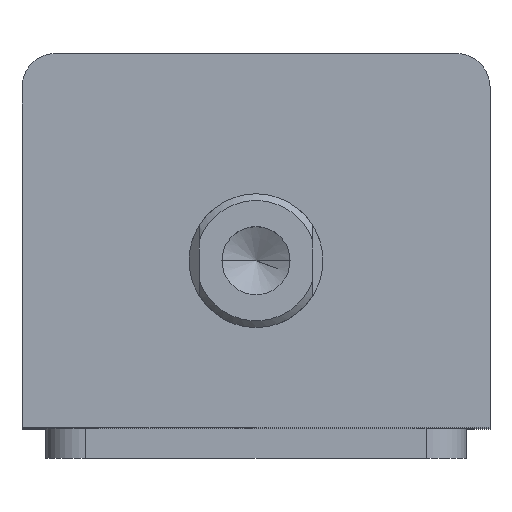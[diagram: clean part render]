
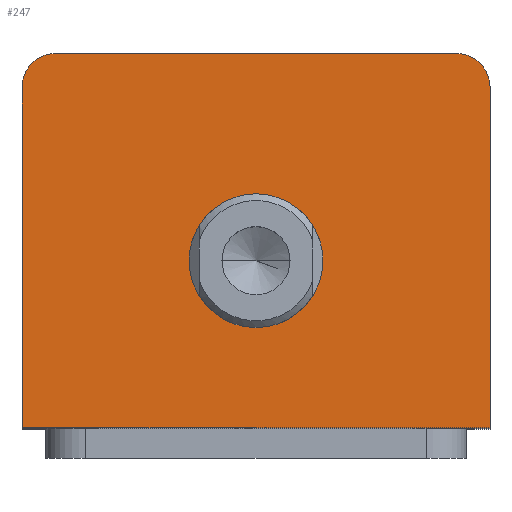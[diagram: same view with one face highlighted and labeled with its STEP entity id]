
A CAD part, top view. The second image highlights one B-rep face of the part: STEP entity #247.
In plain terms, the highlighted planar face has unit normal (0, 0, 1).
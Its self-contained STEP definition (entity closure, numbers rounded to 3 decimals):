
#91 = AXIS2_PLACEMENT_3D ( 'NONE', #2049, #2036, #2034 ) ;
#132 = AXIS2_PLACEMENT_3D ( 'NONE', #2717, #2661, #2707 ) ;
#142 = AXIS2_PLACEMENT_3D ( 'NONE', #2715, #2743, #2668 ) ;
#151 = EDGE_CURVE ( 'NONE', #3045, #2194, #959, .T. ) ;
#176 = EDGE_CURVE ( 'NONE', #3063, #501, #992, .T. ) ;
#247 = ADVANCED_FACE ( 'NONE', ( #1109, #1112 ), #2038, .T. ) ;
#501 = VERTEX_POINT ( 'NONE', #1420 ) ;
#531 = AXIS2_PLACEMENT_3D ( 'NONE', #1759, #1758, #1757 ) ;
#644 = AXIS2_PLACEMENT_3D ( 'NONE', #2566, #2465, #2549 ) ;
#694 = LINE ( 'NONE', #1790, #699 ) ;
#699 = VECTOR ( 'NONE', #1782, 1000. ) ;
#711 = CIRCLE ( 'NONE', #531, 5. ) ;
#730 = LINE ( 'NONE', #2486, #733 ) ;
#733 = VECTOR ( 'NONE', #2531, 1000. ) ;
#762 = LINE ( 'NONE', #2604, #764 ) ;
#764 = VECTOR ( 'NONE', #2598, 1000. ) ;
#783 = LINE ( 'NONE', #2574, #786 ) ;
#786 = VECTOR ( 'NONE', #2595, 1000. ) ;
#816 = CIRCLE ( 'NONE', #644, 10. ) ;
#959 = CIRCLE ( 'NONE', #142, 10. ) ;
#992 = CIRCLE ( 'NONE', #132, 5. ) ;
#1109 = FACE_BOUND ( 'NONE', #2340, .T. ) ;
#1112 = FACE_OUTER_BOUND ( 'NONE', #2346, .T. ) ;
#1218 = CARTESIAN_POINT ( 'NONE',  ( -30., 28., 129. ) ) ;
#1416 = EDGE_CURVE ( 'NONE', #2192, #3064, #694, .T. ) ;
#1420 = CARTESIAN_POINT ( 'NONE',  ( 30., 28., 129. ) ) ;
#1432 = EDGE_CURVE ( 'NONE', #2137, #3065, #711, .T. ) ;
#1441 = CARTESIAN_POINT ( 'NONE',  ( -35., 23., 129. ) ) ;
#1442 = CARTESIAN_POINT ( 'NONE',  ( 35., -28., 129. ) ) ;
#1444 = CARTESIAN_POINT ( 'NONE',  ( 35., 23., 129. ) ) ;
#1478 = CARTESIAN_POINT ( 'NONE',  ( -10., -3., 129. ) ) ;
#1479 = EDGE_CURVE ( 'NONE', #501, #2137, #730, .T. ) ;
#1508 = EDGE_CURVE ( 'NONE', #3064, #3063, #762, .T. ) ;
#1549 = EDGE_CURVE ( 'NONE', #3065, #2192, #783, .T. ) ;
#1588 = EDGE_CURVE ( 'NONE', #2194, #3045, #816, .T. ) ;
#1596 = CARTESIAN_POINT ( 'NONE',  ( 10., -3., 129. ) ) ;
#1599 = CARTESIAN_POINT ( 'NONE',  ( -35., -28., 129. ) ) ;
#1757 = DIRECTION ( 'NONE',  ( 1., 0., 0. ) ) ;
#1758 = DIRECTION ( 'NONE',  ( 0., 0., 1. ) ) ;
#1759 = CARTESIAN_POINT ( 'NONE',  ( -30., 23., 129. ) ) ;
#1782 = DIRECTION ( 'NONE',  ( 1., 0., 0. ) ) ;
#1790 = CARTESIAN_POINT ( 'NONE',  ( -35., -28., 129. ) ) ;
#2034 = DIRECTION ( 'NONE',  ( 1., 0., 0. ) ) ;
#2036 = DIRECTION ( 'NONE',  ( 0., 0., 1. ) ) ;
#2038 = PLANE ( 'NONE',  #91 ) ;
#2049 = CARTESIAN_POINT ( 'NONE',  ( 0., 0., 129. ) ) ;
#2137 = VERTEX_POINT ( 'NONE', #1218 ) ;
#2192 = VERTEX_POINT ( 'NONE', #1599 ) ;
#2194 = VERTEX_POINT ( 'NONE', #1596 ) ;
#2301 = ORIENTED_EDGE ( 'NONE', *, *, #1416, .T. ) ;
#2302 = ORIENTED_EDGE ( 'NONE', *, *, #1549, .T. ) ;
#2303 = ORIENTED_EDGE ( 'NONE', *, *, #1432, .T. ) ;
#2304 = ORIENTED_EDGE ( 'NONE', *, *, #1479, .T. ) ;
#2305 = ORIENTED_EDGE ( 'NONE', *, *, #176, .T. ) ;
#2306 = ORIENTED_EDGE ( 'NONE', *, *, #1508, .T. ) ;
#2307 = ORIENTED_EDGE ( 'NONE', *, *, #151, .F. ) ;
#2308 = ORIENTED_EDGE ( 'NONE', *, *, #1588, .F. ) ;
#2340 = EDGE_LOOP ( 'NONE', ( #2308, #2307 ) ) ;
#2346 = EDGE_LOOP ( 'NONE', ( #2306, #2305, #2304, #2303, #2302, #2301 ) ) ;
#2465 = DIRECTION ( 'NONE',  ( 0., 0., 1. ) ) ;
#2486 = CARTESIAN_POINT ( 'NONE',  ( -35., 28., 129. ) ) ;
#2531 = DIRECTION ( 'NONE',  ( -1., 0., 0. ) ) ;
#2549 = DIRECTION ( 'NONE',  ( 1., 0., 0. ) ) ;
#2566 = CARTESIAN_POINT ( 'NONE',  ( 0., -3., 129. ) ) ;
#2574 = CARTESIAN_POINT ( 'NONE',  ( -35., 28., 129. ) ) ;
#2595 = DIRECTION ( 'NONE',  ( 0., -1., 0. ) ) ;
#2598 = DIRECTION ( 'NONE',  ( 0., 1., 0. ) ) ;
#2604 = CARTESIAN_POINT ( 'NONE',  ( 35., 28., 129. ) ) ;
#2661 = DIRECTION ( 'NONE',  ( 0., 0., 1. ) ) ;
#2668 = DIRECTION ( 'NONE',  ( 1., 0., 0. ) ) ;
#2707 = DIRECTION ( 'NONE',  ( 1., 0., 0. ) ) ;
#2715 = CARTESIAN_POINT ( 'NONE',  ( 0., -3., 129. ) ) ;
#2717 = CARTESIAN_POINT ( 'NONE',  ( 30., 23., 129. ) ) ;
#2743 = DIRECTION ( 'NONE',  ( 0., 0., 1. ) ) ;
#3045 = VERTEX_POINT ( 'NONE', #1478 ) ;
#3063 = VERTEX_POINT ( 'NONE', #1444 ) ;
#3064 = VERTEX_POINT ( 'NONE', #1442 ) ;
#3065 = VERTEX_POINT ( 'NONE', #1441 ) ;
